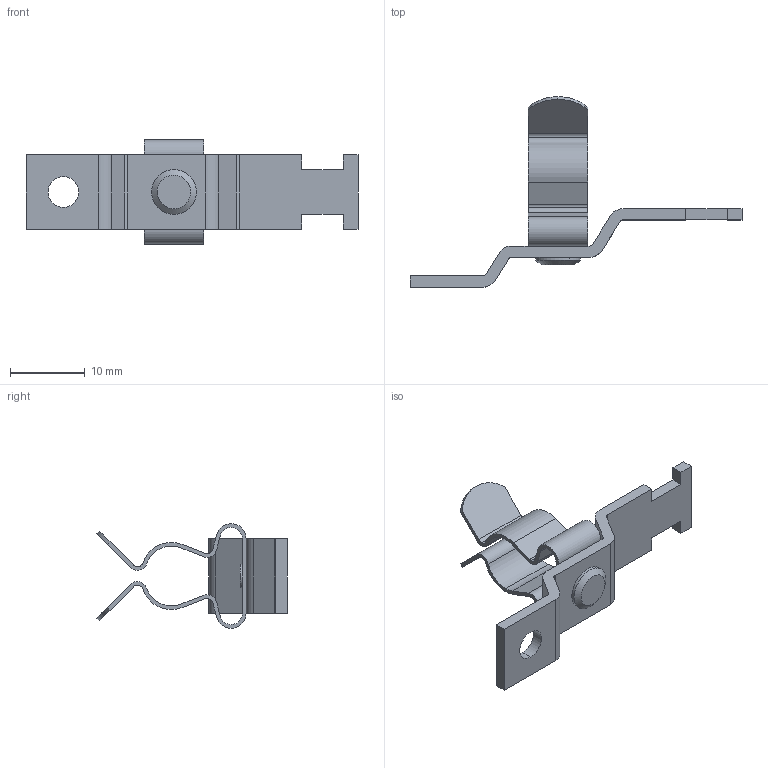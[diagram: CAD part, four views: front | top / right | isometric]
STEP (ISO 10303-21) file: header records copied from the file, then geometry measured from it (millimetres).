
FILE_DESCRIPTION (( 'STEP AP203' ), '1' );
FILE_NAME ('63409118 ZSKL 8-11.STEP', '2025-01-16T02:54:05', ( '' ), ( '' ), 'SwSTEP 2.0', 'SolidWorks 2016', '' );
FILE_SCHEMA (( 'CONFIG_CONTROL_DESIGN' ));
Length unit declared in the file: millimetre
Products named in the file (1): 63409118 ZSKL 8-11
Bounding box: 44.42 x 25.48 x 14 mm (x, y, z)
Volume: 956.2 mm3; surface area: 2044.5 mm2
Topology: 1 solids, 2 shells, 89 faces, 245 edges, 162 vertices
Faces by surface type: cylinder 45, plane 41, cone 2, bspline 1
Entity records: 3007 total; most frequent: CARTESIAN_POINT 570, DIRECTION 513, ORIENTED_EDGE 490, EDGE_CURVE 245, AXIS2_PLACEMENT_3D 181, VERTEX_POINT 162, LINE 151, VECTOR 151
